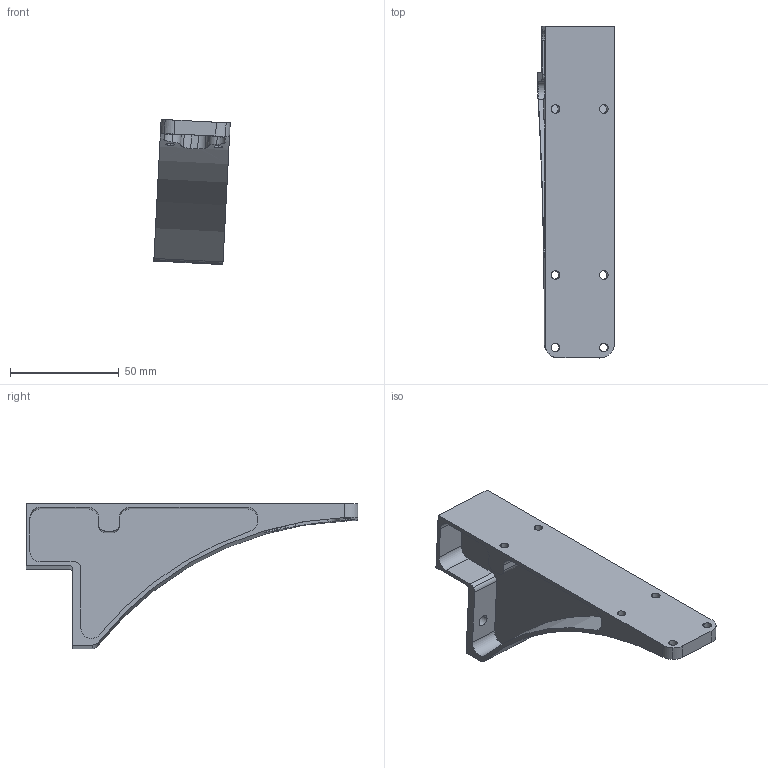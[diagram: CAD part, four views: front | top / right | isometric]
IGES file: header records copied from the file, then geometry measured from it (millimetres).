
Start section: Data from Parasolid IGES Translator 12.0,  Copyright (c) 2006 UGS Corp. All Rights Reserved.
Global section: file name: Bracket.IGS; native system:  By UGS Corp.; preprocessor: XPlus GENERIC/IGES 3.0; author: Noname; organization: Noname; date: 20100317.072545; units: metre
Bounding box: 35.06 x 152.4 x 66.64 mm (x, y, z)
Volume: 33705 mm3; surface area: 31381.8 mm2
Topology: 1 solids, 1 shells, 112 faces, 329 edges, 220 vertices
Faces by surface type: cylinder 75, plane 37
